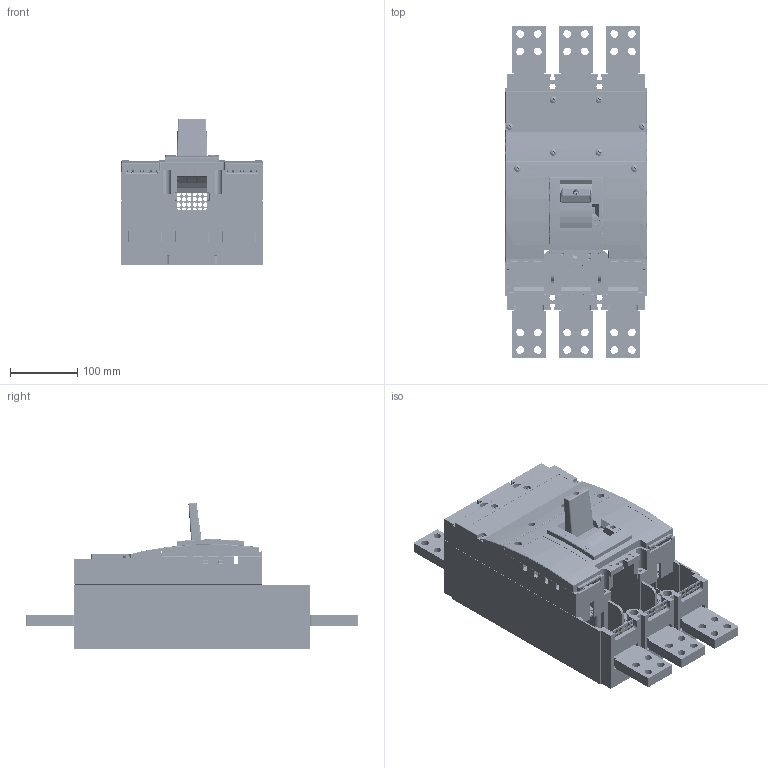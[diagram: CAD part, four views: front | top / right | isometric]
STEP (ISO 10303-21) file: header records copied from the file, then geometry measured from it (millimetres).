
FILE_DESCRIPTION (( 'STEP AP214' ), '1' );
FILE_NAME ('BL1600SE305.step', '2011-09-07T12:41:18', ( 'Radek Veselý' ), ( 'Siemens and Partners' ), 'SwSTEP 2.0', 'SolidWorks 2006303', '' );
FILE_SCHEMA (( 'AUTOMOTIVE_DESIGN' ));
Length unit declared in the file: millimetre
Products named in the file (1): BL1600SE305
Bounding box: 210 x 494 x 218.52 mm (x, y, z)
Volume: 3530103.6 mm3; surface area: 1296288.7 mm2
Topology: 40 solids, 40 shells, 5488 faces, 15073 edges, 9635 vertices
Faces by surface type: plane 2878, cylinder 2039, cone 208, sphere 154, torus 119, bspline 90
Entity records: 243963 total; most frequent: CARTESIAN_POINT 41648, ORIENTED_EDGE 29880, DIRECTION 29444, EDGE_CURVE 14940, AXIS2_PLACEMENT_3D 9960, VERTEX_POINT 9625, VECTOR 9524, LINE 9524
